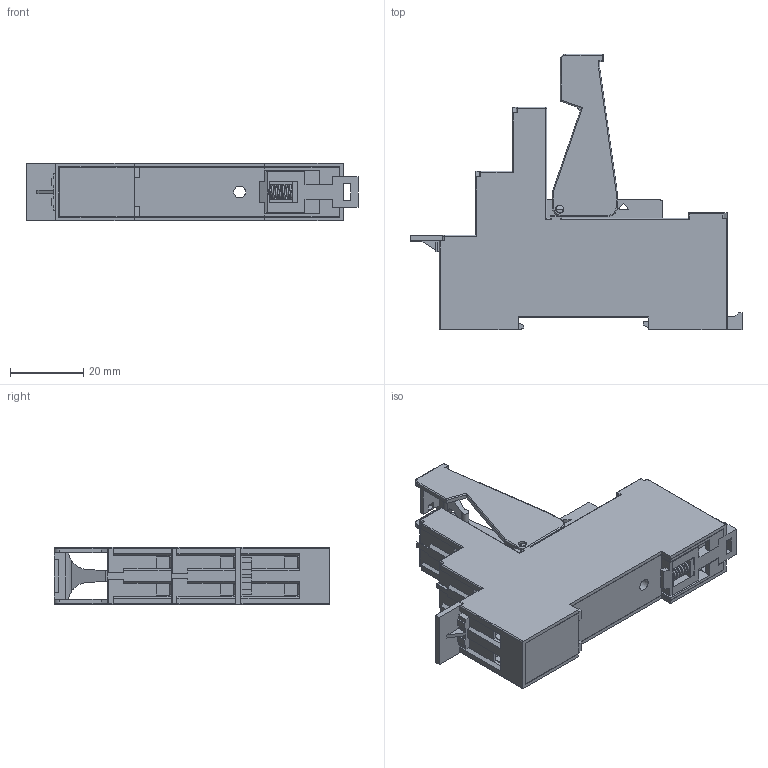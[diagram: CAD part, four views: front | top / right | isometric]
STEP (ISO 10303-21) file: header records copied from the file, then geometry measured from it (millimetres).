
FILE_DESCRIPTION(/* description */ ('Unknown'),/* implementation_level */ '2;1');
FILE_NAME(/* name */ '9505_with_09501_with_095004',/* time_stamp */ '2016-07-06T10:28:41+02:00',/* author */ ('Unknown'),/* organization */ ('Unknown'),/* preprocessor_version */ 'ST-DEVELOPER v16',/* originating_system */ 'DEX',/* authorisation */ $);
FILE_SCHEMA (('AUTOMOTIVE_DESIGN {1 0 10303 214 3 1 1}'));
Length unit declared in the file: millimetre
Products named in the file (9): 9505_with_09501; 95.05; EF00625; EF00137; Assieme morsetto+vite; EF00175-B non completo; EF00345-M3; leva 095.01; None
Assembly tree (15 placements, depth 3):
  9505_with_09501
    95.05
    EF00625
    EF00137
    Assieme morsetto+vite  x8
      EF00175-B non completo
      EF00345-M3
    leva 095.01
    None
Bounding box: 90.8 x 75.4 x 15.8 mm (x, y, z)
Volume: 40693.7 mm3; surface area: 25205.7 mm2
Topology: 21 solids, 21 shells, 948 faces, 2457 edges, 1571 vertices
Faces by surface type: plane 767, cylinder 152, sphere 14, cone 8, torus 6, bspline 1
Full cylindrical faces by diameter (mm): 2 x3, 2.2 x10, 2.6 x8, 3 x16, 3.2 x1, 4.7 x8, 5 x8
Entity records: 21504 total; most frequent: CARTESIAN_POINT 5125, ORIENTED_EDGE 3366, DIRECTION 3216, EDGE_CURVE 1683, LINE 1444, VECTOR 1444, VERTEX_POINT 1091, AXIS2_PLACEMENT_3D 886
